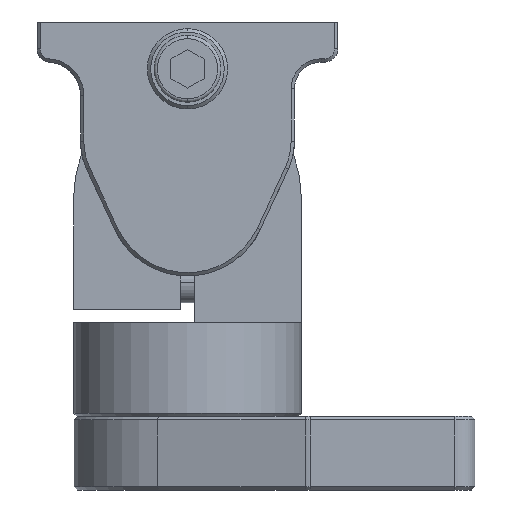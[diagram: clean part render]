
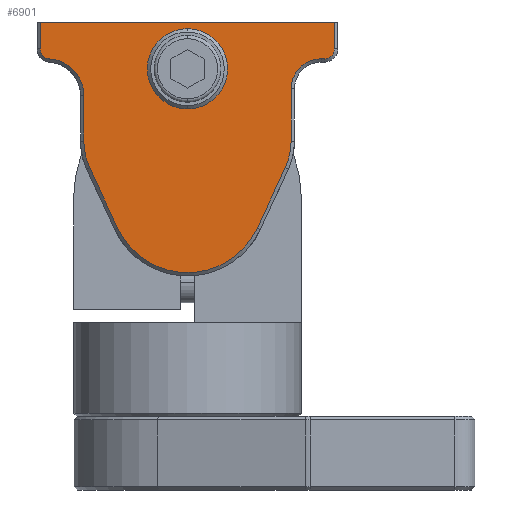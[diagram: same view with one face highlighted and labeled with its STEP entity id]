
A CAD part, front view. The second image highlights one B-rep face of the part: STEP entity #6901.
In plain terms, the highlighted planar face has unit normal (0, -1, 0) as drawn and (1, 0, 0) by its records, which use the part's own axes.
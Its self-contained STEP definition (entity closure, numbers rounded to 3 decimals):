
#4512=CARTESIAN_POINT('',(16.5,0.5,9.35));
#4513=VERTEX_POINT('',#4512);
#4522=CARTESIAN_POINT('',(16.5,0.5,15.65));
#4523=VERTEX_POINT('',#4522);
#4524=CARTESIAN_POINT('',(16.5,0.5,12.5));
#4525=DIRECTION('',(-1.0,0.0,0.0));
#4526=DIRECTION('',(0.0,0.0,-1.0));
#4527=AXIS2_PLACEMENT_3D('',#4524,#4525,#4526);
#4528=CIRCLE('',#4527,3.15);
#4529=EDGE_CURVE('',#4523,#4513,#4528,.T.);
#6239=CARTESIAN_POINT('',(16.5,-14.31,27.119));
#6240=VERTEX_POINT('',#6239);
#6247=CARTESIAN_POINT('',(16.5,-10.314,28.));
#6248=VERTEX_POINT('',#6247);
#6249=CARTESIAN_POINT('',(16.5,-10.314,18.5));
#6250=DIRECTION('',(-1.0,0.,0.));
#6251=DIRECTION('',(0.,-0.215,0.977));
#6252=AXIS2_PLACEMENT_3D('',#6249,#6250,#6251);
#6253=CIRCLE('',#6252,9.5);
#6254=EDGE_CURVE('',#6240,#6248,#6253,.T.);
#6271=CARTESIAN_POINT('',(16.5,-23.337,22.933));
#6272=VERTEX_POINT('',#6271);
#6279=CARTESIAN_POINT('',(16.5,-23.337,22.933));
#6280=DIRECTION('',(0.0,0.907,0.421));
#6281=VECTOR('',#6280,9.951);
#6282=LINE('',#6279,#6281);
#6283=EDGE_CURVE('',#6272,#6240,#6282,.T.);
#6295=CARTESIAN_POINT('',(16.5,-3.5,28.));
#6296=VERTEX_POINT('',#6295);
#6312=CARTESIAN_POINT('',(16.5,-10.314,28.));
#6313=DIRECTION('',(0.0,1.0,0.0));
#6314=VECTOR('',#6313,6.814);
#6315=LINE('',#6312,#6314);
#6316=EDGE_CURVE('',#6248,#6296,#6315,.T.);
#6326=CARTESIAN_POINT('',(16.5,-23.337,2.067));
#6327=VERTEX_POINT('',#6326);
#6334=CARTESIAN_POINT('',(16.5,-18.5,12.5));
#6335=DIRECTION('',(-1.0,0.0,0.0));
#6336=DIRECTION('',(0.0,0.0,1.0));
#6337=AXIS2_PLACEMENT_3D('',#6334,#6335,#6336);
#6338=CIRCLE('',#6337,11.5);
#6339=EDGE_CURVE('',#6327,#6272,#6338,.T.);
#6351=CARTESIAN_POINT('',(16.5,1.986,33.107));
#6352=VERTEX_POINT('',#6351);
#6369=CARTESIAN_POINT('',(16.5,-3.5,33.5));
#6370=DIRECTION('',(1.,0.,0.));
#6371=DIRECTION('',(0.,0.707,-0.707));
#6372=AXIS2_PLACEMENT_3D('',#6369,#6370,#6371);
#6373=CIRCLE('',#6372,5.5);
#6374=EDGE_CURVE('',#6296,#6352,#6373,.T.);
#6384=CARTESIAN_POINT('',(16.5,-14.31,-2.119));
#6385=VERTEX_POINT('',#6384);
#6392=CARTESIAN_POINT('',(16.5,-14.31,-2.119));
#6393=DIRECTION('',(0.0,-0.907,0.421));
#6394=VECTOR('',#6393,9.951);
#6395=LINE('',#6392,#6394);
#6396=EDGE_CURVE('',#6385,#6327,#6395,.T.);
#6408=CARTESIAN_POINT('',(16.5,3.482,34.5));
#6409=VERTEX_POINT('',#6408);
#6426=CARTESIAN_POINT('',(16.5,3.482,33.0));
#6427=DIRECTION('',(-1.0,0.0,0.0));
#6428=DIRECTION('',(0.0,0.0,1.0));
#6429=AXIS2_PLACEMENT_3D('',#6426,#6427,#6428);
#6430=CIRCLE('',#6429,1.5);
#6431=EDGE_CURVE('',#6352,#6409,#6430,.T.);
#6441=CARTESIAN_POINT('',(16.5,-10.314,-3.));
#6442=VERTEX_POINT('',#6441);
#6449=CARTESIAN_POINT('',(16.5,-10.314,6.5));
#6450=DIRECTION('',(-1.0,0.,0.));
#6451=DIRECTION('',(0.,-0.215,-0.977));
#6452=AXIS2_PLACEMENT_3D('',#6449,#6450,#6451);
#6453=CIRCLE('',#6452,9.5);
#6454=EDGE_CURVE('',#6442,#6385,#6453,.T.);
#6466=CARTESIAN_POINT('',(16.5,7.5,34.5));
#6467=VERTEX_POINT('',#6466);
#6483=CARTESIAN_POINT('',(16.5,3.482,34.5));
#6484=DIRECTION('',(0.0,1.0,0.0));
#6485=VECTOR('',#6484,4.018);
#6486=LINE('',#6483,#6485);
#6487=EDGE_CURVE('',#6409,#6467,#6486,.T.);
#6499=CARTESIAN_POINT('',(16.5,-2.5,-3.));
#6500=VERTEX_POINT('',#6499);
#6507=CARTESIAN_POINT('',(16.5,-2.5,-3.));
#6508=DIRECTION('',(0.0,-1.0,0.0));
#6509=VECTOR('',#6508,7.814);
#6510=LINE('',#6507,#6509);
#6511=EDGE_CURVE('',#6500,#6442,#6510,.T.);
#6530=CARTESIAN_POINT('',(16.5,2.,-7.5));
#6531=VERTEX_POINT('',#6530);
#6538=CARTESIAN_POINT('',(16.5,-2.5,-7.5));
#6539=DIRECTION('',(1.0,0.,0.));
#6540=DIRECTION('',(0.,0.707,0.707));
#6541=AXIS2_PLACEMENT_3D('',#6538,#6539,#6540);
#6542=CIRCLE('',#6541,4.5);
#6543=EDGE_CURVE('',#6531,#6500,#6542,.T.);
#6563=CARTESIAN_POINT('',(16.5,2.,-8.0));
#6564=VERTEX_POINT('',#6563);
#6571=CARTESIAN_POINT('',(16.5,2.,-8.0));
#6572=DIRECTION('',(0.0,0.0,1.0));
#6573=VECTOR('',#6572,0.5);
#6574=LINE('',#6571,#6573);
#6575=EDGE_CURVE('',#6564,#6531,#6574,.T.);
#6594=CARTESIAN_POINT('',(16.5,3.5,-9.5));
#6595=VERTEX_POINT('',#6594);
#6602=CARTESIAN_POINT('',(16.5,3.5,-8.0));
#6603=DIRECTION('',(-1.,0.,0.));
#6604=DIRECTION('',(0.,-0.707,-0.707));
#6605=AXIS2_PLACEMENT_3D('',#6602,#6603,#6604);
#6606=CIRCLE('',#6605,1.5);
#6607=EDGE_CURVE('',#6595,#6564,#6606,.T.);
#6627=CARTESIAN_POINT('',(16.5,7.5,-9.5));
#6628=VERTEX_POINT('',#6627);
#6635=CARTESIAN_POINT('',(16.5,7.5,-9.5));
#6636=DIRECTION('',(0.0,-1.0,0.0));
#6637=VECTOR('',#6636,4.);
#6638=LINE('',#6635,#6637);
#6639=EDGE_CURVE('',#6628,#6595,#6638,.T.);
#6864=CARTESIAN_POINT('',(16.5,7.5,-10.0));
#6865=DIRECTION('',(1.0,0.0,0.0));
#6866=DIRECTION('',(0.0,0.0,-1.0));
#6867=AXIS2_PLACEMENT_3D('',#6864,#6865,#6866);
#6868=PLANE('',#6867);
#6869=ORIENTED_EDGE('',*,*,#6639,.F.);
#6870=CARTESIAN_POINT('',(16.5,7.5,-9.5));
#6871=DIRECTION('',(0.0,0.0,1.0));
#6872=VECTOR('',#6871,44.0);
#6873=LINE('',#6870,#6872);
#6874=EDGE_CURVE('',#6628,#6467,#6873,.T.);
#6875=ORIENTED_EDGE('',*,*,#6874,.T.);
#6876=ORIENTED_EDGE('',*,*,#6487,.F.);
#6877=ORIENTED_EDGE('',*,*,#6431,.F.);
#6878=ORIENTED_EDGE('',*,*,#6374,.F.);
#6879=ORIENTED_EDGE('',*,*,#6316,.F.);
#6880=ORIENTED_EDGE('',*,*,#6254,.F.);
#6881=ORIENTED_EDGE('',*,*,#6283,.F.);
#6882=ORIENTED_EDGE('',*,*,#6339,.F.);
#6883=ORIENTED_EDGE('',*,*,#6396,.F.);
#6884=ORIENTED_EDGE('',*,*,#6454,.F.);
#6885=ORIENTED_EDGE('',*,*,#6511,.F.);
#6886=ORIENTED_EDGE('',*,*,#6543,.F.);
#6887=ORIENTED_EDGE('',*,*,#6575,.F.);
#6888=ORIENTED_EDGE('',*,*,#6607,.F.);
#6889=EDGE_LOOP('',(#6869,#6875,#6876,#6877,#6878,#6879,#6880,#6881,#6882,#6883,#6884,#6885,#6886,#6887,#6888));
#6890=FACE_OUTER_BOUND('',#6889,.T.);
#6891=CARTESIAN_POINT('',(16.5,0.5,12.5));
#6892=DIRECTION('',(-1.0,0.0,0.0));
#6893=DIRECTION('',(0.0,0.0,-1.0));
#6894=AXIS2_PLACEMENT_3D('',#6891,#6892,#6893);
#6895=CIRCLE('',#6894,3.15);
#6896=EDGE_CURVE('',#4513,#4523,#6895,.T.);
#6897=ORIENTED_EDGE('',*,*,#6896,.T.);
#6898=ORIENTED_EDGE('',*,*,#4529,.T.);
#6899=EDGE_LOOP('',(#6897,#6898));
#6900=FACE_BOUND('',#6899,.T.);
#6901=ADVANCED_FACE('',(#6890,#6900),#6868,.T.);
